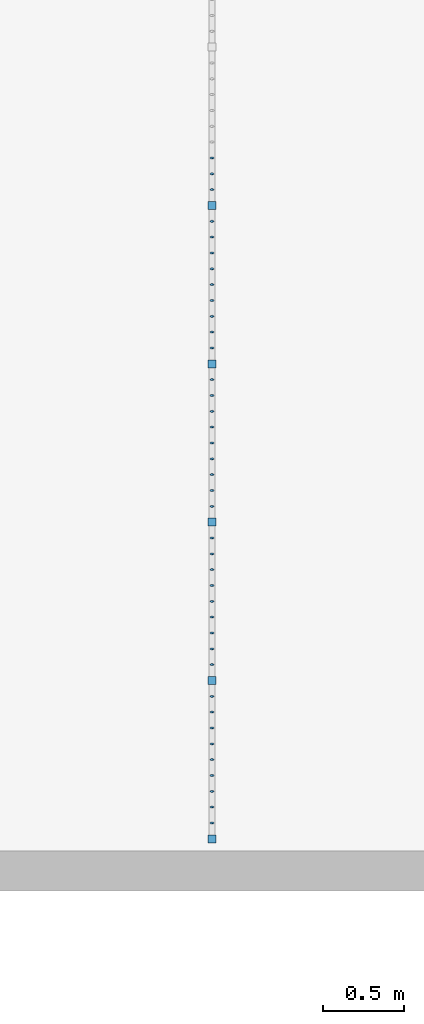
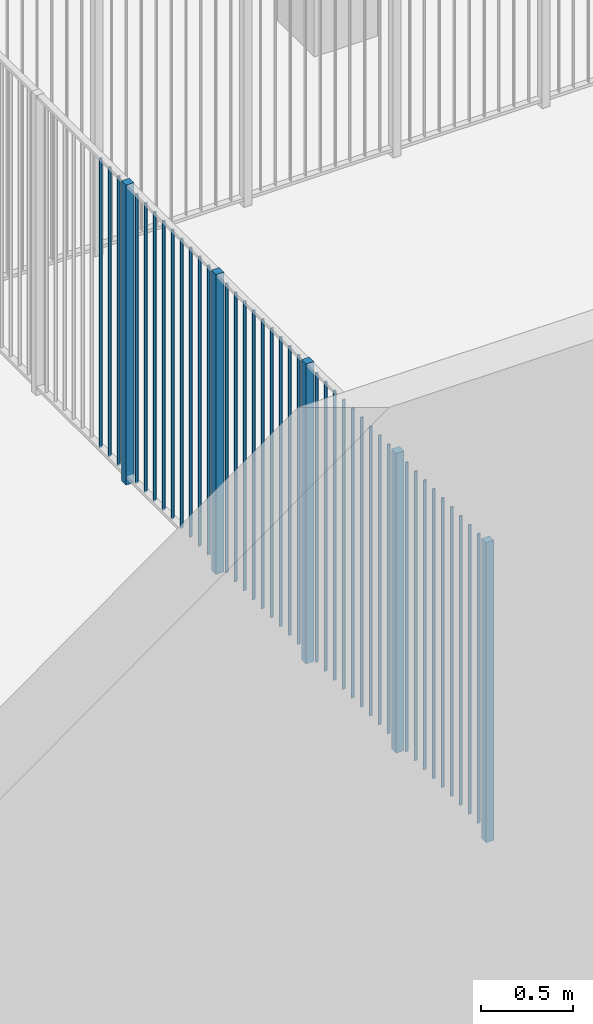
# One storey, part 1 of 135: 44 members, 1 element without a shape of its own.
"""IFC2X3 building model written with IfcOpenShell, lengths in millimetres."""

from ifc_helpers import new_model, entity, si_unit, converted_unit, derived_unit, money_unit, direction, frame, origin_with_axes, place, context, subcontext, project, spatial, faceted_brep, source, transform, mapped, material, type_object, type_shapes, element, aggregate, save


model = new_model("IFC2X3")

# Units and contexts
model_context = context("Model", 3, precision=0.01, world=origin_with_axes(), true_north=direction((0.0, 1.0)))
body_context = subcontext(model_context, "Body", "Model", "MODEL_VIEW")
ifc_project = project(units=[si_unit("LENGTHUNIT", "METRE", prefix="MILLI"), si_unit("AREAUNIT", "SQUARE_METRE"), si_unit("VOLUMEUNIT", "CUBIC_METRE"), converted_unit("PLANEANGLEUNIT", "DEGREE", entity("IfcPlaneAngleMeasure", 0.0174532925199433), si_unit("PLANEANGLEUNIT", "RADIAN"), dimensions=[0, 0, 0, 0, 0, 0, 0]), money_unit("EUR"), converted_unit("TIMEUNIT", "Year", entity("IfcTimeMeasure", 31557600.0), si_unit("TIMEUNIT", "SECOND"), dimensions=[0, 0, 1, 0, 0, 0, 0]), si_unit("MASSUNIT", "GRAM", prefix="KILO"), si_unit("THERMODYNAMICTEMPERATUREUNIT", "DEGREE_CELSIUS"), si_unit("LUMINOUSINTENSITYUNIT", "LUMEN"), si_unit("ENERGYUNIT", "JOULE", prefix="MEGA"), derived_unit("THERMALCONDUCTANCEUNIT", [(si_unit("POWERUNIT", "WATT"), 1), (si_unit("LENGTHUNIT", "METRE"), -1), (si_unit("THERMODYNAMICTEMPERATUREUNIT", "KELVIN"), -1)]), derived_unit("SPECIFICHEATCAPACITYUNIT", [(si_unit("ENERGYUNIT", "JOULE"), 1), (si_unit("MASSUNIT", "GRAM", prefix="KILO"), -1), (si_unit("THERMODYNAMICTEMPERATUREUNIT", "KELVIN"), -1)]), derived_unit("MASSDENSITYUNIT", [(si_unit("MASSUNIT", "GRAM", prefix="KILO"), 1), (si_unit("VOLUMEUNIT", "CUBIC_METRE"), -1)])], contexts=[model_context])

# Site, building, storey
site_placement = place(None, origin_with_axes())
site = spatial("IfcSite", under=ifc_project, at=site_placement, Name="Site", CompositionType="ELEMENT")
building_placement = place(site_placement, origin_with_axes())
building = spatial("IfcBuilding", under=site, at=building_placement, Name="Naam gebouw", CompositionType="ELEMENT")
storey_placement = place(building_placement, origin_with_axes())
storey = spatial("IfcBuildingStorey", under=building, at=storey_placement, Name="Begane grond N", CompositionType="ELEMENT", Elevation=0.0)

# Railing, members
railing_type = type_object("IfcRailingType", Name="Railing Type", PredefinedType="NOTDEFINED")
railing_placement = place(storey_placement, frame((-9250.67106541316, 12765.57502437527, 0.0), z_axis=(0.0, 0.0, 1.0), x_axis=(1.0, 0.0, 0.0)))
railing = element("IfcRailing", 1, at=railing_placement, inside=storey, type_object=railing_type, Name="_Reling-x", PredefinedType="NOTDEFINED")
ifc_material = material(Name="Metaal - Staal C")
member_type_1 = type_object("IfcMemberType", Name="IfcMember", PredefinedType="POST")
shared_shape_1 = source(origin_with_axes(), body_context, "Body", "Brep", [
    faceted_brep([(25.0, 25.0, 0.0), (-25.0, 25.0, 0.0), (-25.00000000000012, 25.0, 2000.0), (24.99999999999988, 25.0, 2000.0), (25.0, -25.0, 0.0), (-25.0, -25.0, 0.0), (-25.00000000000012, -25.0, 2000.0), (24.99999999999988, -25.0, 2000.0)], [[[0, 1, 2, 3]], [[0, 4, 5, 1]], [[1, 5, 6, 2]], [[3, 2, 6, 7]], [[4, 0, 3, 7]], [[5, 4, 7, 6]]]),
])
member_1_placement = place(railing_placement, frame((996.6510855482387, -5925.0, 0.0), z_axis=(0.0, 0.0, 1.0), x_axis=(1.0, 0.0, 0.0)))
member_1 = element("IfcMember", 2, at=member_1_placement, type_object=member_type_1, material=ifc_material, Name="_Hoofdbaluster-x", ObjectType="POST", context=body_context, shape_type="MappedRepresentation", body=[
    mapped(shared_shape_1, transform((0.0, 0.0, 0.0))),
])
member_type_2 = type_object("IfcMemberType", Name="IfcMember", PredefinedType="MEMBER")
shared_shape_2 = source(origin_with_axes(), body_context, "Body", "Brep", [
    faceted_brep([(0.0, -5.0, 0.0), (1.736481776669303, -4.92403876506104, 0.0), (1.736481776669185, -4.92403876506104, 1930.0), (0.0, -5.0, 1930.0), (-1.736481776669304, -4.92403876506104, 0.0), (-3.420201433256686, -4.698463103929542, 0.0), (-5.000000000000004, -4.330127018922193, 0.0), (-6.427876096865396, -3.830222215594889, 0.0), (-7.660444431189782, -3.213938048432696, 0.0), (-8.660254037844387, -2.5, 0.0), (-9.396926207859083, -1.710100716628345, 0.0), (-9.848077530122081, -0.86824088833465, 0.0), (-10.0, 0.0, 0.0), (-9.84807753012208, 0.8682408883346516, 0.0), (-9.396926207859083, 1.710100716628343, 0.0), (-8.660254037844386, 2.500000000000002, 0.0), (-7.660444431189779, 3.213938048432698, 0.0), (-6.427876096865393, 3.83022221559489, 0.0), (-5.000000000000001, 4.330127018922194, 0.0), (-3.420201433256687, 4.698463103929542, 0.0), (-1.736481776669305, 4.92403876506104, 0.0), (0.0, 5.0, 0.0), (1.736481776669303, 4.92403876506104, 0.0), (3.420201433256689, 4.698463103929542, 0.0), (4.999999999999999, 4.330127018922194, 0.0), (6.427876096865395, 3.83022221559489, 0.0), (7.660444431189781, 3.213938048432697, 0.0), (8.660254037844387, 2.499999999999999, 0.0), (9.396926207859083, 1.710100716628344, 0.0), (9.84807753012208, 0.8682408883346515, 0.0), (10.0, 0.0, 0.0), (9.84807753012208, -0.8682408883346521, 0.0), (9.396926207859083, -1.710100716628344, 0.0), (8.660254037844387, -2.5, 0.0), (7.660444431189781, -3.213938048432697, 0.0), (6.427876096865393, -3.83022221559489, 0.0), (4.999999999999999, -4.330127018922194, 0.0), (3.420201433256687, -4.698463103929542, 0.0), (3.420201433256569, -4.698463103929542, 1930.0), (4.999999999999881, -4.330127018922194, 1930.0), (6.427876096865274, -3.83022221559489, 1930.0), (7.660444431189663, -3.213938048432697, 1930.0), (8.660254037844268, -2.5, 1930.0), (9.396926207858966, -1.710100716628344, 1930.0), (9.848077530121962, -0.8682408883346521, 1930.0), (9.999999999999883, 0.0, 1930.0), (9.848077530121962, 0.8682408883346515, 1930.0), (9.396926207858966, 1.710100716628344, 1930.0), (8.660254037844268, 2.499999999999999, 1930.0), (7.660444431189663, 3.213938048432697, 1930.0), (6.427876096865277, 3.83022221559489, 1930.0), (4.999999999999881, 4.330127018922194, 1930.0), (3.42020143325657, 4.698463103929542, 1930.0), (1.736481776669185, 4.92403876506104, 1930.0), (0.0, 5.0, 1930.0), (-1.736481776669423, 4.92403876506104, 1930.0), (-3.420201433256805, 4.698463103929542, 1930.0), (-5.000000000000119, 4.330127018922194, 1930.0), (-6.427876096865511, 3.83022221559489, 1930.0), (-7.660444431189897, 3.213938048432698, 1930.0), (-8.660254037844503, 2.500000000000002, 1930.0), (-9.396926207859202, 1.710100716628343, 1930.0), (-9.848077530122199, 0.8682408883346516, 1930.0), (-10.00000000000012, 0.0, 1930.0), (-9.8480775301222, -0.86824088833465, 1930.0), (-9.396926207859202, -1.710100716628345, 1930.0), (-8.660254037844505, -2.5, 1930.0), (-7.6604444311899, -3.213938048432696, 1930.0), (-6.427876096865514, -3.830222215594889, 1930.0), (-5.000000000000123, -4.330127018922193, 1930.0), (-3.420201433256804, -4.698463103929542, 1930.0), (-1.736481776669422, -4.92403876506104, 1930.0)], [[[0, 1, 2, 3]], [[0, 4, 5, 6, 7, 8, 9, 10, 11, 12, 13, 14, 15, 16, 17, 18, 19, 20, 21, 22, 23, 24, 25, 26, 27, 28, 29, 30, 31, 32, 33, 34, 35, 36, 37, 1]], [[1, 37, 38, 2]], [[3, 2, 38, 39, 40, 41, 42, 43, 44, 45, 46, 47, 48, 49, 50, 51, 52, 53, 54, 55, 56, 57, 58, 59, 60, 61, 62, 63, 64, 65, 66, 67, 68, 69, 70, 71]], [[4, 0, 3, 71]], [[5, 4, 71, 70]], [[6, 5, 70, 69]], [[7, 6, 69, 68]], [[8, 7, 68, 67]], [[9, 8, 67, 66]], [[10, 9, 66, 65]], [[11, 10, 65, 64]], [[12, 11, 64, 63]], [[13, 12, 63, 62]], [[14, 13, 62, 61]], [[15, 14, 61, 60]], [[16, 15, 60, 59]], [[17, 16, 59, 58]], [[18, 17, 58, 57]], [[19, 18, 57, 56]], [[20, 19, 56, 55]], [[21, 20, 55, 54]], [[22, 21, 54, 53]], [[23, 22, 53, 52]], [[24, 23, 52, 51]], [[25, 24, 51, 50]], [[26, 25, 50, 49]], [[27, 26, 49, 48]], [[28, 27, 48, 47]], [[29, 28, 47, 46]], [[30, 29, 46, 45]], [[31, 30, 45, 44]], [[32, 31, 44, 43]], [[33, 32, 43, 42]], [[34, 33, 42, 41]], [[35, 34, 41, 40]], [[36, 35, 40, 39]], [[37, 36, 39, 38]]]),
])
type_shapes(member_type_2, [shared_shape_2])
member_2_placement = place(railing_placement, frame((996.6510855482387, -5826.666666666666, 50.0), z_axis=(0.0, 0.0, 1.0), x_axis=(1.0, 0.0, 0.0)))
member_2 = element("IfcMember", 3, at=member_2_placement, type_object=member_type_2, material=ifc_material, Name="_Spijlen-x", ObjectType="MEMBER", context=body_context, shape_type="MappedRepresentation", body=[
    mapped(shared_shape_2, transform((0.0, 0.0, 0.0))),
])
member_3_placement = place(railing_placement, frame((996.6510855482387, -5728.333333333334, 50.0), z_axis=(0.0, 0.0, 1.0), x_axis=(1.0, 0.0, 0.0)))
member_3 = element("IfcMember", 4, at=member_3_placement, type_object=member_type_2, material=ifc_material, Name="_Spijlen-x", ObjectType="MEMBER", context=body_context, shape_type="MappedRepresentation", body=[
    mapped(shared_shape_2, transform((0.0, 0.0, 0.0))),
])
member_4_placement = place(railing_placement, frame((996.6510855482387, -5630.0, 50.0), z_axis=(0.0, 0.0, 1.0), x_axis=(1.0, 0.0, 0.0)))
member_4 = element("IfcMember", 5, at=member_4_placement, type_object=member_type_2, material=ifc_material, Name="_Spijlen-x", ObjectType="MEMBER", context=body_context, shape_type="MappedRepresentation", body=[
    mapped(shared_shape_2, transform((0.0, 0.0, 0.0))),
])
member_5_placement = place(railing_placement, frame((996.6510855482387, -5531.666666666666, 50.0), z_axis=(0.0, 0.0, 1.0), x_axis=(1.0, 0.0, 0.0)))
member_5 = element("IfcMember", 6, at=member_5_placement, type_object=member_type_2, material=ifc_material, Name="_Spijlen-x", ObjectType="MEMBER", context=body_context, shape_type="MappedRepresentation", body=[
    mapped(shared_shape_2, transform((0.0, 0.0, 0.0))),
])
member_6_placement = place(railing_placement, frame((996.6510855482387, -5433.333333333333, 50.0), z_axis=(0.0, 0.0, 1.0), x_axis=(1.0, 0.0, 0.0)))
member_6 = element("IfcMember", 7, at=member_6_placement, type_object=member_type_2, material=ifc_material, Name="_Spijlen-x", ObjectType="MEMBER", context=body_context, shape_type="MappedRepresentation", body=[
    mapped(shared_shape_2, transform((0.0, 0.0, 0.0))),
])
member_7_placement = place(railing_placement, frame((996.6510855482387, -5335.0, 50.0), z_axis=(0.0, 0.0, 1.0), x_axis=(1.0, 0.0, 0.0)))
member_7 = element("IfcMember", 8, at=member_7_placement, type_object=member_type_2, material=ifc_material, Name="_Spijlen-x", ObjectType="MEMBER", context=body_context, shape_type="MappedRepresentation", body=[
    mapped(shared_shape_2, transform((0.0, 0.0, 0.0))),
])
member_8_placement = place(railing_placement, frame((996.6510855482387, -5138.333333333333, 50.0), z_axis=(0.0, 0.0, 1.0), x_axis=(1.0, 0.0, 0.0)))
member_8 = element("IfcMember", 9, at=member_8_placement, type_object=member_type_2, material=ifc_material, Name="_Spijlen-x", ObjectType="MEMBER", context=body_context, shape_type="MappedRepresentation", body=[
    mapped(shared_shape_2, transform((0.0, 0.0, 0.0))),
])
member_9_placement = place(railing_placement, frame((996.6510855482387, -5039.999999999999, 50.0), z_axis=(0.0, 0.0, 1.0), x_axis=(1.0, 0.0, 0.0)))
member_9 = element("IfcMember", 10, at=member_9_placement, type_object=member_type_2, material=ifc_material, Name="_Spijlen-x", ObjectType="MEMBER", context=body_context, shape_type="MappedRepresentation", body=[
    mapped(shared_shape_2, transform((0.0, 0.0, 0.0))),
])
member_10_placement = place(railing_placement, frame((996.6510855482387, -5236.666666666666, 50.0), z_axis=(0.0, 0.0, 1.0), x_axis=(1.0, 0.0, 0.0)))
member_10 = element("IfcMember", 11, at=member_10_placement, type_object=member_type_2, material=ifc_material, Name="_Spijlen-x", ObjectType="MEMBER", context=body_context, shape_type="MappedRepresentation", body=[
    mapped(shared_shape_2, transform((0.0, 0.0, 0.0))),
])
member_11_placement = place(railing_placement, frame((996.6510855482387, -4843.333333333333, 50.0), z_axis=(0.0, 0.0, 1.0), x_axis=(1.0, 0.0, 0.0)))
member_11 = element("IfcMember", 12, at=member_11_placement, type_object=member_type_2, material=ifc_material, Name="_Spijlen-x", ObjectType="MEMBER", context=body_context, shape_type="MappedRepresentation", body=[
    mapped(shared_shape_2, transform((0.0, 0.0, 0.0))),
])
member_12_placement = place(railing_placement, frame((996.6510855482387, -4646.666666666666, 50.0), z_axis=(0.0, 0.0, 1.0), x_axis=(1.0, 0.0, 0.0)))
member_12 = element("IfcMember", 13, at=member_12_placement, type_object=member_type_2, material=ifc_material, Name="_Spijlen-x", ObjectType="MEMBER", context=body_context, shape_type="MappedRepresentation", body=[
    mapped(shared_shape_2, transform((0.0, 0.0, 0.0))),
])
member_13_placement = place(railing_placement, frame((996.6510855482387, -4744.999999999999, 50.0), z_axis=(0.0, 0.0, 1.0), x_axis=(1.0, 0.0, 0.0)))
member_13 = element("IfcMember", 14, at=member_13_placement, type_object=member_type_2, material=ifc_material, Name="_Spijlen-x", ObjectType="MEMBER", context=body_context, shape_type="MappedRepresentation", body=[
    mapped(shared_shape_2, transform((0.0, 0.0, 0.0))),
])
member_14_placement = place(railing_placement, frame((996.6510855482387, -4449.999999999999, 50.0), z_axis=(0.0, 0.0, 1.0), x_axis=(1.0, 0.0, 0.0)))
member_14 = element("IfcMember", 15, at=member_14_placement, type_object=member_type_2, material=ifc_material, Name="_Spijlen-x", ObjectType="MEMBER", context=body_context, shape_type="MappedRepresentation", body=[
    mapped(shared_shape_2, transform((0.0, 0.0, 0.0))),
])
member_15_placement = place(railing_placement, frame((996.6510855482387, -4548.333333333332, 50.0), z_axis=(0.0, 0.0, 1.0), x_axis=(1.0, 0.0, 0.0)))
member_15 = element("IfcMember", 16, at=member_15_placement, type_object=member_type_2, material=ifc_material, Name="_Spijlen-x", ObjectType="MEMBER", context=body_context, shape_type="MappedRepresentation", body=[
    mapped(shared_shape_2, transform((0.0, 0.0, 0.0))),
])
member_16_placement = place(railing_placement, frame((996.6510855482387, -4351.666666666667, 50.0), z_axis=(0.0, 0.0, 1.0), x_axis=(1.0, 0.0, 0.0)))
member_16 = element("IfcMember", 17, at=member_16_placement, type_object=member_type_2, material=ifc_material, Name="_Spijlen-x", ObjectType="MEMBER", context=body_context, shape_type="MappedRepresentation", body=[
    mapped(shared_shape_2, transform((0.0, 0.0, 0.0))),
])
member_17_placement = place(railing_placement, frame((996.6510855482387, -4253.333333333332, 50.0), z_axis=(0.0, 0.0, 1.0), x_axis=(1.0, 0.0, 0.0)))
member_17 = element("IfcMember", 18, at=member_17_placement, type_object=member_type_2, material=ifc_material, Name="_Spijlen-x", ObjectType="MEMBER", context=body_context, shape_type="MappedRepresentation", body=[
    mapped(shared_shape_2, transform((0.0, 0.0, 0.0))),
])
member_18_placement = place(railing_placement, frame((996.6510855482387, -4154.999999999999, 50.0), z_axis=(0.0, 0.0, 1.0), x_axis=(1.0, 0.0, 0.0)))
member_18 = element("IfcMember", 19, at=member_18_placement, type_object=member_type_2, material=ifc_material, Name="_Spijlen-x", ObjectType="MEMBER", context=body_context, shape_type="MappedRepresentation", body=[
    mapped(shared_shape_2, transform((0.0, 0.0, 0.0))),
])
member_19_placement = place(railing_placement, frame((996.6510855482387, -4056.666666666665, 50.0), z_axis=(0.0, 0.0, 1.0), x_axis=(1.0, 0.0, 0.0)))
member_19 = element("IfcMember", 20, at=member_19_placement, type_object=member_type_2, material=ifc_material, Name="_Spijlen-x", ObjectType="MEMBER", context=body_context, shape_type="MappedRepresentation", body=[
    mapped(shared_shape_2, transform((0.0, 0.0, 0.0))),
])
member_20_placement = place(railing_placement, frame((996.6510855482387, -3761.666666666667, 50.0), z_axis=(0.0, 0.0, 1.0), x_axis=(1.0, 0.0, 0.0)))
member_20 = element("IfcMember", 21, at=member_20_placement, type_object=member_type_2, material=ifc_material, Name="_Spijlen-x", ObjectType="MEMBER", context=body_context, shape_type="MappedRepresentation", body=[
    mapped(shared_shape_2, transform((0.0, 0.0, 0.0))),
])
member_21_placement = place(railing_placement, frame((996.6510855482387, -3565.0, 50.0), z_axis=(0.0, 0.0, 1.0), x_axis=(1.0, 0.0, 0.0)))
member_21 = element("IfcMember", 22, at=member_21_placement, type_object=member_type_2, material=ifc_material, Name="_Spijlen-x", ObjectType="MEMBER", context=body_context, shape_type="MappedRepresentation", body=[
    mapped(shared_shape_2, transform((0.0, 0.0, 0.0))),
])
member_22_placement = place(railing_placement, frame((996.6510855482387, -3663.333333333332, 50.0), z_axis=(0.0, 0.0, 1.0), x_axis=(1.0, 0.0, 0.0)))
member_22 = element("IfcMember", 23, at=member_22_placement, type_object=member_type_2, material=ifc_material, Name="_Spijlen-x", ObjectType="MEMBER", context=body_context, shape_type="MappedRepresentation", body=[
    mapped(shared_shape_2, transform((0.0, 0.0, 0.0))),
])
member_23_placement = place(railing_placement, frame((996.6510855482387, -3368.333333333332, 50.0), z_axis=(0.0, 0.0, 1.0), x_axis=(1.0, 0.0, 0.0)))
member_23 = element("IfcMember", 24, at=member_23_placement, type_object=member_type_2, material=ifc_material, Name="_Spijlen-x", ObjectType="MEMBER", context=body_context, shape_type="MappedRepresentation", body=[
    mapped(shared_shape_2, transform((0.0, 0.0, 0.0))),
])
member_24_placement = place(railing_placement, frame((996.6510855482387, -3860.0, 50.0), z_axis=(0.0, 0.0, 1.0), x_axis=(1.0, 0.0, 0.0)))
member_24 = element("IfcMember", 25, at=member_24_placement, type_object=member_type_2, material=ifc_material, Name="_Spijlen-x", ObjectType="MEMBER", context=body_context, shape_type="MappedRepresentation", body=[
    mapped(shared_shape_2, transform((0.0, 0.0, 0.0))),
])
member_25_placement = place(railing_placement, frame((996.6510855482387, -3270.0, 50.0), z_axis=(0.0, 0.0, 1.0), x_axis=(1.0, 0.0, 0.0)))
member_25 = element("IfcMember", 26, at=member_25_placement, type_object=member_type_2, material=ifc_material, Name="_Spijlen-x", ObjectType="MEMBER", context=body_context, shape_type="MappedRepresentation", body=[
    mapped(shared_shape_2, transform((0.0, 0.0, 0.0))),
])
member_26_placement = place(railing_placement, frame((996.6510855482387, -3466.666666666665, 50.0), z_axis=(0.0, 0.0, 1.0), x_axis=(1.0, 0.0, 0.0)))
member_26 = element("IfcMember", 27, at=member_26_placement, type_object=member_type_2, material=ifc_material, Name="_Spijlen-x", ObjectType="MEMBER", context=body_context, shape_type="MappedRepresentation", body=[
    mapped(shared_shape_2, transform((0.0, 0.0, 0.0))),
])
member_27_placement = place(railing_placement, frame((996.6510855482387, -3171.666666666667, 50.0), z_axis=(0.0, 0.0, 1.0), x_axis=(1.0, 0.0, 0.0)))
member_27 = element("IfcMember", 28, at=member_27_placement, type_object=member_type_2, material=ifc_material, Name="_Spijlen-x", ObjectType="MEMBER", context=body_context, shape_type="MappedRepresentation", body=[
    mapped(shared_shape_2, transform((0.0, 0.0, 0.0))),
])
member_28_placement = place(railing_placement, frame((996.6510855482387, -3073.333333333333, 50.0), z_axis=(0.0, 0.0, 1.0), x_axis=(1.0, 0.0, 0.0)))
member_28 = element("IfcMember", 29, at=member_28_placement, type_object=member_type_2, material=ifc_material, Name="_Spijlen-x", ObjectType="MEMBER", context=body_context, shape_type="MappedRepresentation", body=[
    mapped(shared_shape_2, transform((0.0, 0.0, 0.0))),
])
member_29_placement = place(railing_placement, frame((996.6510855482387, -2876.666666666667, 50.0), z_axis=(0.0, 0.0, 1.0), x_axis=(1.0, 0.0, 0.0)))
member_29 = element("IfcMember", 30, at=member_29_placement, type_object=member_type_2, material=ifc_material, Name="_Spijlen-x", ObjectType="MEMBER", context=body_context, shape_type="MappedRepresentation", body=[
    mapped(shared_shape_2, transform((0.0, 0.0, 0.0))),
])
member_30_placement = place(railing_placement, frame((996.6510855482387, -2778.333333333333, 50.0), z_axis=(0.0, 0.0, 1.0), x_axis=(1.0, 0.0, 0.0)))
member_30 = element("IfcMember", 31, at=member_30_placement, type_object=member_type_2, material=ifc_material, Name="_Spijlen-x", ObjectType="MEMBER", context=body_context, shape_type="MappedRepresentation", body=[
    mapped(shared_shape_2, transform((0.0, 0.0, 0.0))),
])
member_31_placement = place(railing_placement, frame((996.6510855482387, -2680.0, 50.0), z_axis=(0.0, 0.0, 1.0), x_axis=(1.0, 0.0, 0.0)))
member_31 = element("IfcMember", 32, at=member_31_placement, type_object=member_type_2, material=ifc_material, Name="_Spijlen-x", ObjectType="MEMBER", context=body_context, shape_type="MappedRepresentation", body=[
    mapped(shared_shape_2, transform((0.0, 0.0, 0.0))),
])
member_32_placement = place(railing_placement, frame((996.6510855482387, -2581.666666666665, 50.0), z_axis=(0.0, 0.0, 1.0), x_axis=(1.0, 0.0, 0.0)))
member_32 = element("IfcMember", 33, at=member_32_placement, type_object=member_type_2, material=ifc_material, Name="_Spijlen-x", ObjectType="MEMBER", context=body_context, shape_type="MappedRepresentation", body=[
    mapped(shared_shape_2, transform((0.0, 0.0, 0.0))),
])
member_33_placement = place(railing_placement, frame((996.6510855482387, -2483.333333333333, 50.0), z_axis=(0.0, 0.0, 1.0), x_axis=(1.0, 0.0, 0.0)))
member_33 = element("IfcMember", 34, at=member_33_placement, type_object=member_type_2, material=ifc_material, Name="_Spijlen-x", ObjectType="MEMBER", context=body_context, shape_type="MappedRepresentation", body=[
    mapped(shared_shape_2, transform((0.0, 0.0, 0.0))),
])
member_34_placement = place(railing_placement, frame((996.6510855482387, -2384.999999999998, 50.0), z_axis=(0.0, 0.0, 1.0), x_axis=(1.0, 0.0, 0.0)))
member_34 = element("IfcMember", 35, at=member_34_placement, type_object=member_type_2, material=ifc_material, Name="_Spijlen-x", ObjectType="MEMBER", context=body_context, shape_type="MappedRepresentation", body=[
    mapped(shared_shape_2, transform((0.0, 0.0, 0.0))),
])
member_35_placement = place(railing_placement, frame((996.6510855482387, -2286.666666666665, 50.0), z_axis=(0.0, 0.0, 1.0), x_axis=(1.0, 0.0, 0.0)))
member_35 = element("IfcMember", 36, at=member_35_placement, type_object=member_type_2, material=ifc_material, Name="_Spijlen-x", ObjectType="MEMBER", context=body_context, shape_type="MappedRepresentation", body=[
    mapped(shared_shape_2, transform((0.0, 0.0, 0.0))),
])
member_36_placement = place(railing_placement, frame((996.6510855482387, -2188.333333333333, 50.0), z_axis=(0.0, 0.0, 1.0), x_axis=(1.0, 0.0, 0.0)))
member_36 = element("IfcMember", 37, at=member_36_placement, type_object=member_type_2, material=ifc_material, Name="_Spijlen-x", ObjectType="MEMBER", context=body_context, shape_type="MappedRepresentation", body=[
    mapped(shared_shape_2, transform((0.0, 0.0, 0.0))),
])
member_37_placement = place(railing_placement, frame((996.6510855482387, -2090.0, 50.0), z_axis=(0.0, 0.0, 1.0), x_axis=(1.0, 0.0, 0.0)))
member_37 = element("IfcMember", 38, at=member_37_placement, type_object=member_type_2, material=ifc_material, Name="_Spijlen-x", ObjectType="MEMBER", context=body_context, shape_type="MappedRepresentation", body=[
    mapped(shared_shape_2, transform((0.0, 0.0, 0.0))),
])
member_38_placement = place(railing_placement, frame((996.6510855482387, -1893.333333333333, 50.0), z_axis=(0.0, 0.0, 1.0), x_axis=(1.0, 0.0, 0.0)))
member_38 = element("IfcMember", 39, at=member_38_placement, type_object=member_type_2, material=ifc_material, Name="_Spijlen-x", ObjectType="MEMBER", context=body_context, shape_type="MappedRepresentation", body=[
    mapped(shared_shape_2, transform((0.0, 0.0, 0.0))),
])
member_39_placement = place(railing_placement, frame((996.6510855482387, -1794.999999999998, 50.0), z_axis=(0.0, 0.0, 1.0), x_axis=(1.0, 0.0, 0.0)))
member_39 = element("IfcMember", 40, at=member_39_placement, type_object=member_type_2, material=ifc_material, Name="_Spijlen-x", ObjectType="MEMBER", context=body_context, shape_type="MappedRepresentation", body=[
    mapped(shared_shape_2, transform((0.0, 0.0, 0.0))),
])
member_40_placement = place(railing_placement, frame((996.6510855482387, -1696.666666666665, 50.0), z_axis=(0.0, 0.0, 1.0), x_axis=(1.0, 0.0, 0.0)))
member_40 = element("IfcMember", 41, at=member_40_placement, type_object=member_type_2, material=ifc_material, Name="_Spijlen-x", ObjectType="MEMBER", context=body_context, shape_type="MappedRepresentation", body=[
    mapped(shared_shape_2, transform((0.0, 0.0, 0.0))),
])
shared_shape_3 = source(origin_with_axes(), body_context, "Body", "Brep", [
    faceted_brep([(25.0, 25.0, 0.0), (-25.0, 25.0, 0.0), (-25.00000000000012, 25.0, 2000.0), (24.99999999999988, 25.0, 2000.0), (25.0, -25.0, 0.0), (-25.0, -25.0, 0.0), (-25.00000000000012, -25.0, 2000.0), (24.99999999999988, -25.0, 2000.0)], [[[0, 1, 2, 3]], [[0, 4, 5, 1]], [[1, 5, 6, 2]], [[3, 2, 6, 7]], [[4, 0, 3, 7]], [[5, 4, 7, 6]]]),
])
type_shapes(member_type_1, [shared_shape_1, shared_shape_3])
member_41_placement = place(railing_placement, frame((996.6510855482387, -4941.666666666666, 0.0), z_axis=(0.0, 0.0, 1.0), x_axis=(1.0, 0.0, 0.0)))
member_41 = element("IfcMember", 42, at=member_41_placement, type_object=member_type_1, material=ifc_material, Name="_Baluster-x", ObjectType="POST", context=body_context, shape_type="MappedRepresentation", body=[
    mapped(shared_shape_3, transform((0.0, 0.0, 0.0))),
])
member_42_placement = place(railing_placement, frame((996.6510855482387, -3958.333333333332, 0.0), z_axis=(0.0, 0.0, 1.0), x_axis=(1.0, 0.0, 0.0)))
member_42 = element("IfcMember", 43, at=member_42_placement, type_object=member_type_1, material=ifc_material, Name="_Baluster-x", ObjectType="POST", context=body_context, shape_type="MappedRepresentation", body=[
    mapped(shared_shape_3, transform((0.0, 0.0, 0.0))),
])
member_43_placement = place(railing_placement, frame((996.6510855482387, -1991.666666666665, 0.0), z_axis=(0.0, 0.0, 1.0), x_axis=(1.0, 0.0, 0.0)))
member_43 = element("IfcMember", 44, at=member_43_placement, type_object=member_type_1, material=ifc_material, Name="_Baluster-x", ObjectType="POST", context=body_context, shape_type="MappedRepresentation", body=[
    mapped(shared_shape_3, transform((0.0, 0.0, 0.0))),
])
member_44_placement = place(railing_placement, frame((996.6510855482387, -2975.0, 0.0), z_axis=(0.0, 0.0, 1.0), x_axis=(1.0, 0.0, 0.0)))
member_44 = element("IfcMember", 45, at=member_44_placement, type_object=member_type_1, material=ifc_material, Name="_Baluster-x", ObjectType="POST", context=body_context, shape_type="MappedRepresentation", body=[
    mapped(shared_shape_3, transform((0.0, 0.0, 0.0))),
])
aggregate(railing, [member_1, member_2, member_3, member_4, member_5, member_6, member_7, member_8, member_9, member_10, member_11, member_41, member_12, member_13, member_14, member_15, member_16, member_17, member_18, member_19, member_42, member_20, member_21, member_22, member_23, member_24, member_25, member_26, member_27, member_28, member_29, member_30, member_31, member_32, member_33, member_34, member_35, member_36, member_37, member_43, member_38, member_39, member_40, member_44])

save(model, "model.ifc")
